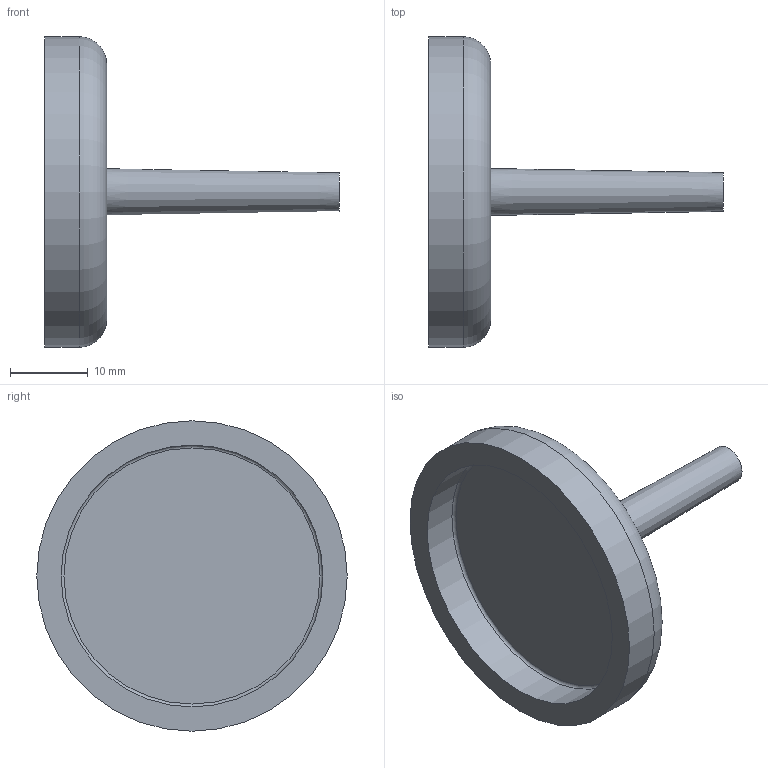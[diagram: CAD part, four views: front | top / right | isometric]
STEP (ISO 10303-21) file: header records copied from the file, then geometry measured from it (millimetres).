
FILE_DESCRIPTION(/* description */ (''),/* implementation_level */ '2;1');
FILE_NAME(/* name */ 'Z:\Geberit\Export\NewStep\Abschlussdeckel_Ipart\stp\360812.stp',/* time_stamp */ '2014-04-03T17:36:17+02:00',/* author */ ('Bründl'),/* organization */ (''),/* preprocessor_version */ 'ST-DEVELOPER v15.2',/* originating_system */ 'Autodesk Inventor 2014',/* authorisation */ '');
FILE_SCHEMA (('AUTOMOTIVE_DESIGN { 1 0 10303 214 3 1 1 }'));
Length unit declared in the file: millimetre
Products named in the file (1): 360812
Bounding box: 38 x 40 x 40 mm (x, y, z)
Volume: 6105.6 mm3; surface area: 4335.3 mm2
Topology: 1 solids, 1 shells, 9 faces, 13 edges, 8 vertices
Faces by surface type: plane 4, cylinder 2, torus 2, cone 1
Full cylindrical faces by diameter (mm): 33.74 x1, 40 x1
Entity records: 204 total; most frequent: DIRECTION 36, CARTESIAN_POINT 26, AXIS2_PLACEMENT_3D 18, EDGE_LOOP 16, ORIENTED_EDGE 16, STYLED_ITEM 10, ADVANCED_FACE 9, FACE_BOUND 8
